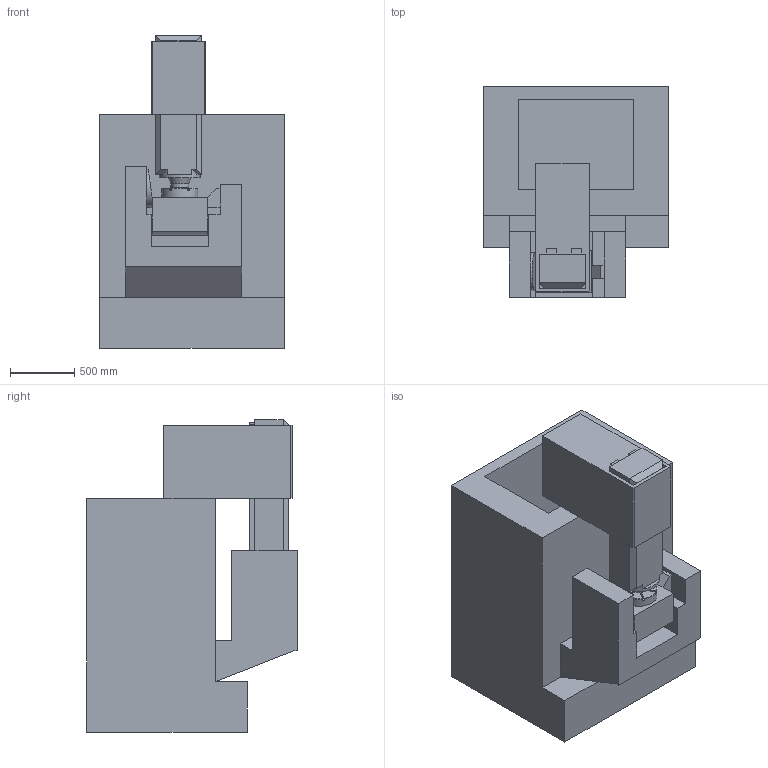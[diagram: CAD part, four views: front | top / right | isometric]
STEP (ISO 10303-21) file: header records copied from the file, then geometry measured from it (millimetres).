
FILE_DESCRIPTION(('CATIA V5 STEP Exchange'),'2;1');
FILE_NAME('Z:\FAO\UPC600_NCsimul_AK\UPC600_NCsimul_AK\UCP6000.stp','2016-11-19T07:43:57+00:00',('none'),('none'),'Version 5-6 Release 2012','CATIA V5 STEP AP203','none');
FILE_SCHEMA(('CONFIG_CONTROL_DESIGN'));
Length unit declared in the file: millimetre
Products named in the file (1): UCP6000
Assembly tree (7 placements, depth 2):
  UCP6000
    #57
    #411
    #1171
    #2044
    #2924
    #4076
    #5059
Bounding box: 1438 x 1639.5 x 2432.77 mm (x, y, z)
Volume: 2312326487.7 mm3; surface area: 27699303 mm2
Topology: 7 solids, 7 shells, 242 faces, 631 edges, 412 vertices
Faces by surface type: plane 184, cylinder 38, cone 20
Entity records: 7127 total; most frequent: CARTESIAN_POINT 1349, ORIENTED_EDGE 1248, DIRECTION 978, EDGE_CURVE 624, VECTOR 473, LINE 473, VERTEX_POINT 410, AXIS2_PLACEMENT_3D 314
